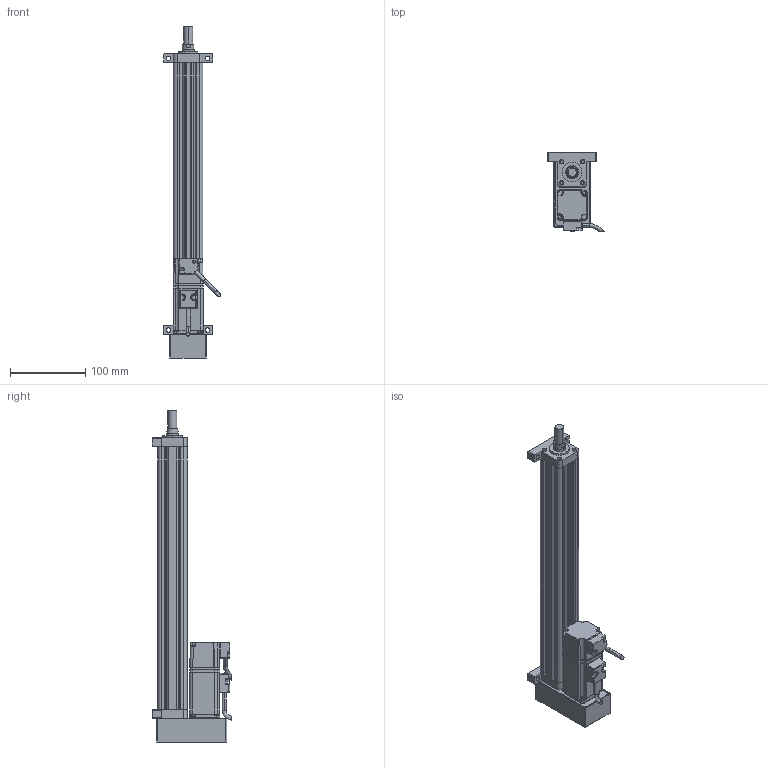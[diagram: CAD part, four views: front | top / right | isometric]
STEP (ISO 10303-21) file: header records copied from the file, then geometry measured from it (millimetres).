
FILE_DESCRIPTION (( 'STEP AP214' ), '1' );
FILE_NAME ('039-S300-D02-B-M2-C1-2.STEP', '2021-02-25T08:48:10', ( '' ), ( '' ), 'SwSTEP 2.0', 'SolidWorks 2018', '' );
FILE_SCHEMA (( 'AUTOMOTIVE_DESIGN' ));
Length unit declared in the file: millimetre
Products named in the file (8): CMC039-XT; CMC039-LJB; CMC039-GT; CMC039-HDB; CMC039-DT; CMC039-QDB; 039-S300-D02-B-M2-C1-2; ECMA-CX0401ES-40框號系列機種-100W低慣量系列
Assembly tree (7 placements, depth 2):
  039-S300-D02-B-M2-C1-2
    CMC039-GT
    CMC039-LJB
    CMC039-XT
    CMC039-DT
    ECMA-CX0401ES-40框號系列機種-100W低慣量系列
    CMC039-QDB
    CMC039-HDB
Bounding box: 75.33 x 104.89 x 440 mm (x, y, z)
Volume: 559405.3 mm3; surface area: 198280.8 mm2
Topology: 7 solids, 15 shells, 637 faces, 1658 edges, 1033 vertices
Faces by surface type: cylinder 260, plane 254, bspline 84, cone 39
Entity records: 25542 total; most frequent: CARTESIAN_POINT 10820, ORIENTED_EDGE 3250, DIRECTION 2583, EDGE_CURVE 1625, VERTEX_POINT 1033, AXIS2_PLACEMENT_3D 883, LINE 817, VECTOR 817
